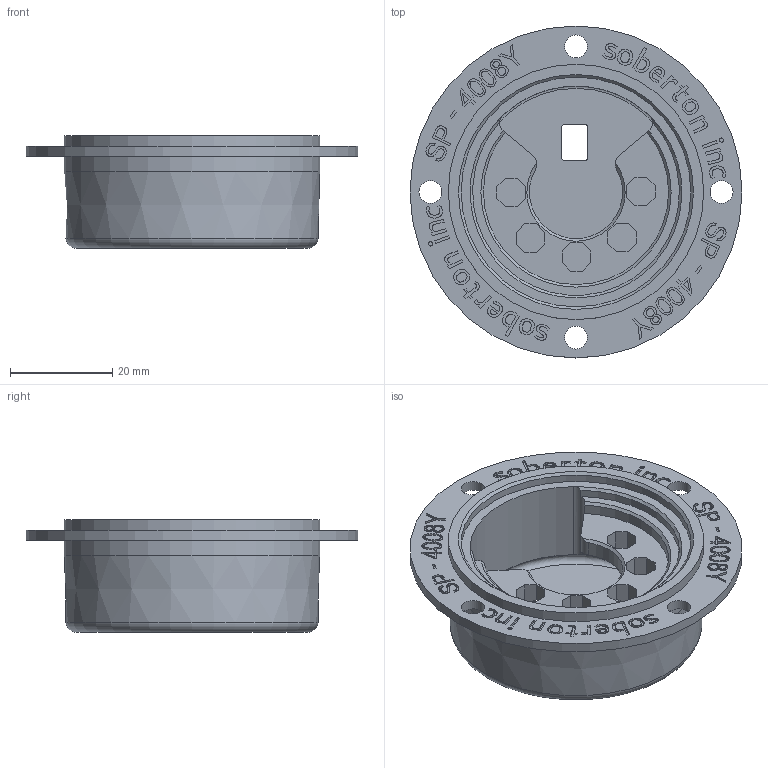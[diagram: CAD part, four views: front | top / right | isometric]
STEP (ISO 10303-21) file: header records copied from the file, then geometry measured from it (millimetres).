
FILE_DESCRIPTION(/* description */ ('Alibre Inc.'),/* implementation_level */ '2;1');
FILE_NAME(/* name */ 'export-412DAABF-F820-46F3-8085-1EF27AEDCD3E',/* time_stamp */ '2020-09-29T19:58:10-05:00',/* author */ (''),/* organization */ (''),/* preprocessor_version */ 'ST-DEVELOPER v17',/* originating_system */ 'Alibre',/* authorisation */ '');
FILE_SCHEMA (('AUTOMOTIVE_DESIGN'));
Length unit declared in the file: millimetre
Bounding box: 65 x 65 x 22 mm (x, y, z)
Volume: 23241.9 mm3; surface area: 14155.1 mm2
Topology: 1 solids, 2 shells, 1187 faces, 3285 edges, 2188 vertices
Faces by surface type: bspline 700, plane 417, cylinder 61, cone 6, torus 3
Full cylindrical faces by diameter (mm): 0.782 x1, 4.5 x4, 45 x1, 50 x2, 65 x1
Entity records: 38713 total; most frequent: CARTESIAN_POINT 13733, ORIENTED_EDGE 6540, EDGE_CURVE 3270, DIRECTION 2479, VERTEX_POINT 2187, VECTOR 1675, LINE 1675, B_SPLINE_CURVE_WITH_KNOTS 1425
